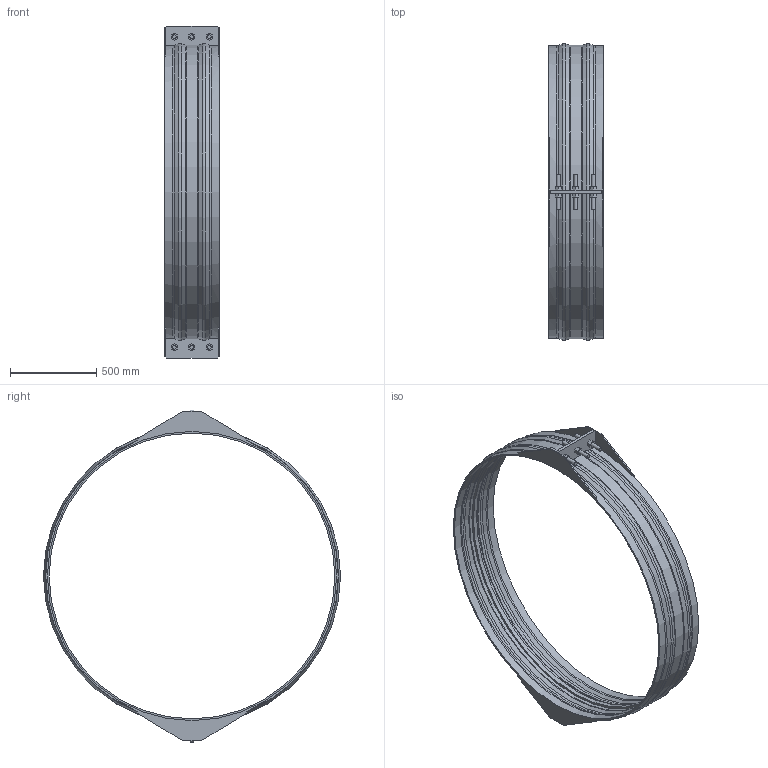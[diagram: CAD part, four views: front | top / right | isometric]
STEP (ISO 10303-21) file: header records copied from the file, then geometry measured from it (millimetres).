
FILE_DESCRIPTION(/* description */ ('VIC SS RESTRAINED COUPLING STYLE 233S (FLEX) (BRD)','CAx-IF Rec.Pracs.---Representation and Presentation of Product Manufacturing Information (PMI)---4.0---2014-10-13'),/* implementation_level */ '2;1');
FILE_NAME(/* name */ 'C:\Users\kkamble\AppData\Roaming\Autodesk\ApplicationPlugins\Back Up\Victaulic_VBSP_Coupling Flexible Restrained_Style 233S (BRD)\Victaulic_VBSP_Coupling Flexible Restrained_Style 233S (BRD)_50psi_66 (1650).stp',/* time_stamp */ '2020-09-22T18:30:49+05:00',/* author */ ('Vjadhav'),/* organization */ ('Victaulic'),/* preprocessor_version */ 'ST-DEVELOPER v17.2',/* originating_system */ 'Autodesk Inventor 2019',/* authorisation */ '');
FILE_SCHEMA (('AP242_MANAGED_MODEL_BASED_3D_ENGINEERING_MIM_LF { 1 0 10303 442 1 1 4 }'));
Length unit declared in the file: inch
Products named in the file (1): Style_233S_Type_2_50psi-66.0
Bounding box: 317.5 x 1722.14 x 1925.32 mm (x, y, z)
Volume: 20910184 mm3; surface area: 4228665.5 mm2
Topology: 1 solids, 1 shells, 211 faces, 557 edges, 374 vertices
Faces by surface type: plane 142, cylinder 39, torus 18, cone 12
Full cylindrical faces by diameter (mm): 22.225 x12, 1657.35 x1, 1676.4 x2, 1682.75 x2
Entity records: 7048 total; most frequent: CARTESIAN_POINT 1352, DIRECTION 1127, ORIENTED_EDGE 1114, EDGE_CURVE 557, LINE 389, VECTOR 389, VERTEX_POINT 374, AXIS2_PLACEMENT_3D 369
